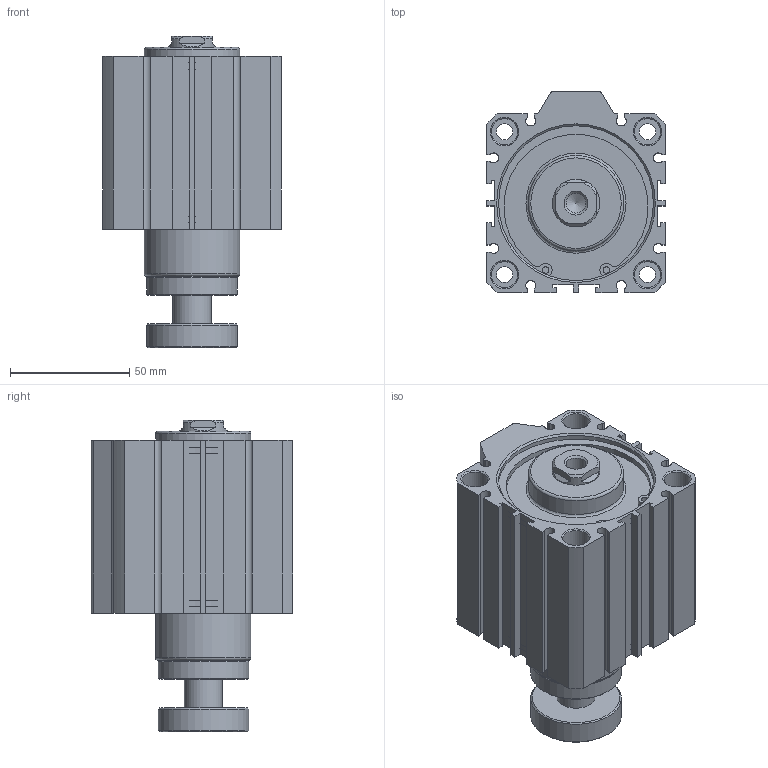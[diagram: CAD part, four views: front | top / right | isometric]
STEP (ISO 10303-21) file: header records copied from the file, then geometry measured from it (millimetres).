
FILE_DESCRIPTION((''),'2;1');
FILE_NAME('I:\3D電子目錄\氣缸\JDAR\JDAR\JDAR63\JDAR63x40.stp','2007-03-14T11:50:30',('662F206'),(''),'Autodesk Inventor 11','Autodesk Inventor 11','');
FILE_SCHEMA(('AUTOMOTIVE_DESIGN { 1 0 10303 214 1 1 1 1 }'));
Length unit declared in the file: millimetre
Products named in the file (3): JDAR63; R 形環 65
Assembly tree (3 placements, depth 2):
  JDAR63
    JDAR63
    R 形環 65  x2
Bounding box: 75 x 84.5 x 130.8 mm (x, y, z)
Volume: 418042.5 mm3; surface area: 67949 mm2
Topology: 3 solids, 3 shells, 197 faces, 484 edges, 317 vertices
Faces by surface type: plane 110, cylinder 58, cone 23, bspline 4, torus 2
Full cylindrical faces by diameter (mm): 2.7 x4, 3 x2, 6.8 x4, 11 x8, 16 x1, 20 x1, 38 x2, 40 x2, 65 x4, 68 x2
Entity records: 5335 total; most frequent: CARTESIAN_POINT 1013, DIRECTION 898, ORIENTED_EDGE 788, EDGE_CURVE 394, AXIS2_PLACEMENT_3D 325, VERTEX_POINT 290, EDGE_LOOP 274, VECTOR 248
